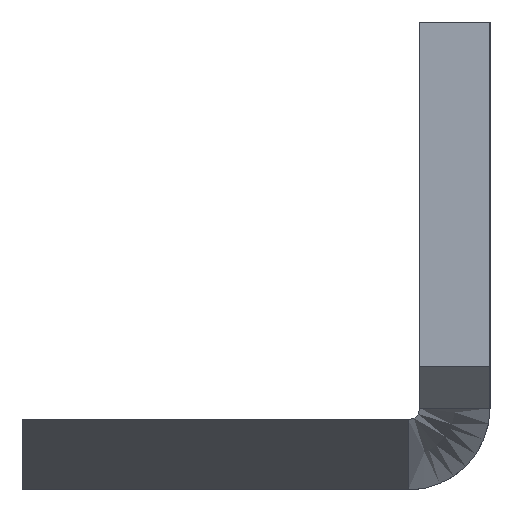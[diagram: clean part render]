
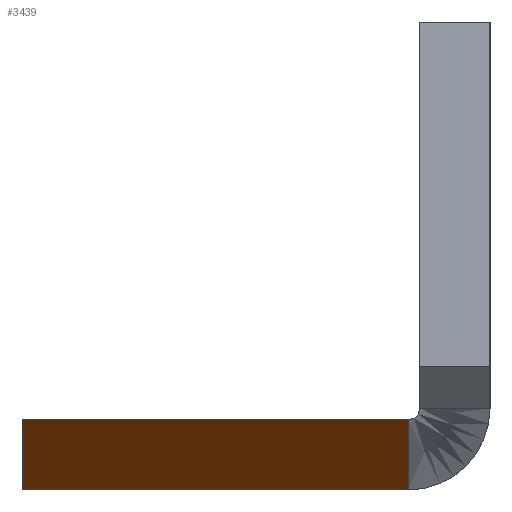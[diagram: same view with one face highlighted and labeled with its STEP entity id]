
A CAD part, left-side view. The second image highlights one B-rep face of the part: STEP entity #3439.
In plain terms, the highlighted planar face has unit normal (-0.447, 0.894, 0).
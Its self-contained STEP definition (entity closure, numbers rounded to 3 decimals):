
#131 = B_SPLINE_CURVE_WITH_KNOTS ( 'NONE', 1,
 ( #1787, #380 ),
 .UNSPECIFIED., .F., .F.,
 ( 2, 2 ),
 ( 0., 1. ),
 .UNSPECIFIED. ) ;
#201 = AXIS2_PLACEMENT_3D ( 'NONE', #652, #381, #2335 ) ;
#349 = ORIENTED_EDGE ( 'NONE', *, *, #752, .F. ) ;
#380 = CARTESIAN_POINT ( 'NONE',  ( -493., 0.5, -20. ) ) ;
#381 = DIRECTION ( 'NONE',  ( -0.447, 0.894, 0. ) ) ;
#428 = VERTEX_POINT ( 'NONE', #1867 ) ;
#434 = CARTESIAN_POINT ( 'NONE',  ( -460., 17., -17. ) ) ;
#589 = DIRECTION ( 'NONE',  ( -0.894, -0.447, 0. ) ) ;
#591 = LINE ( 'NONE', #1701, #1020 ) ;
#652 = CARTESIAN_POINT ( 'NONE',  ( -500., -3., -20. ) ) ;
#654 = DIRECTION ( 'NONE',  ( 0., 0., 1. ) ) ;
#737 = LINE ( 'NONE', #1277, #1061 ) ;
#740 = ORIENTED_EDGE ( 'NONE', *, *, #1961, .T. ) ;
#752 = EDGE_CURVE ( 'NONE', #976, #428, #2185, .T. ) ;
#842 = VERTEX_POINT ( 'NONE', #1502 ) ;
#976 = VERTEX_POINT ( 'NONE', #434 ) ;
#1012 = PLANE ( 'NONE',  #201 ) ;
#1020 = VECTOR ( 'NONE', #654, 1000. ) ;
#1061 = VECTOR ( 'NONE', #3205, 1000. ) ;
#1170 = CARTESIAN_POINT ( 'NONE',  ( -493., 0.5, -20. ) ) ;
#1277 = CARTESIAN_POINT ( 'NONE',  ( -500., -3., -20. ) ) ;
#1500 = ORIENTED_EDGE ( 'NONE', *, *, #3197, .F. ) ;
#1502 = CARTESIAN_POINT ( 'NONE',  ( -460., 17., -20. ) ) ;
#1553 = FACE_OUTER_BOUND ( 'NONE', #3572, .T. ) ;
#1701 = CARTESIAN_POINT ( 'NONE',  ( -460., 17., -20. ) ) ;
#1787 = CARTESIAN_POINT ( 'NONE',  ( -493., 0.5, -17. ) ) ;
#1867 = CARTESIAN_POINT ( 'NONE',  ( -493., 0.5, -17. ) ) ;
#1889 = VECTOR ( 'NONE', #589, 1000. ) ;
#1961 = EDGE_CURVE ( 'NONE', #842, #3317, #737, .T. ) ;
#2185 = LINE ( 'NONE', #3296, #1889 ) ;
#2335 = DIRECTION ( 'NONE',  ( -0.894, -0.447, 0. ) ) ;
#2336 = EDGE_CURVE ( 'NONE', #428, #3317, #131, .T. ) ;
#2961 = ORIENTED_EDGE ( 'NONE', *, *, #2336, .F. ) ;
#3197 = EDGE_CURVE ( 'NONE', #842, #976, #591, .T. ) ;
#3205 = DIRECTION ( 'NONE',  ( -0.894, -0.447, 0. ) ) ;
#3296 = CARTESIAN_POINT ( 'NONE',  ( -500., -3., -17. ) ) ;
#3317 = VERTEX_POINT ( 'NONE', #1170 ) ;
#3439 = ADVANCED_FACE ( 'NONE', ( #1553 ), #1012, .T. ) ;
#3572 = EDGE_LOOP ( 'NONE', ( #2961, #349, #1500, #740 ) ) ;
